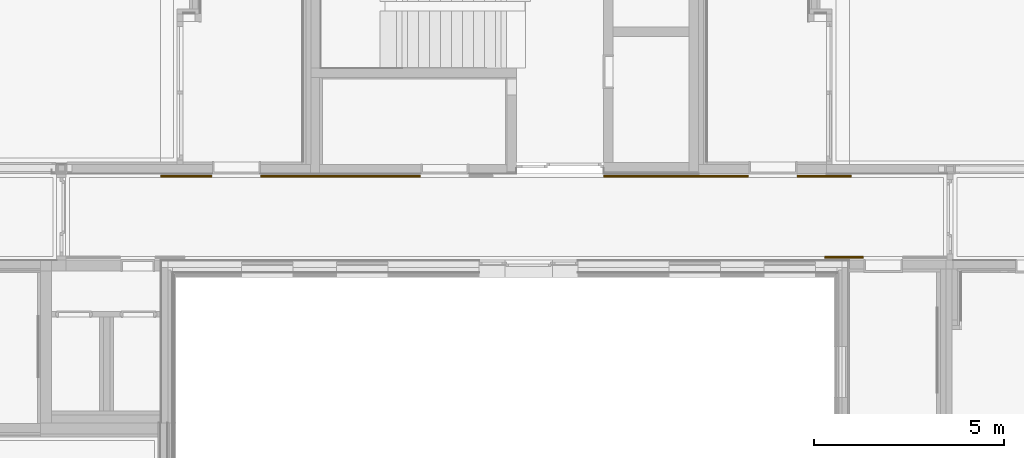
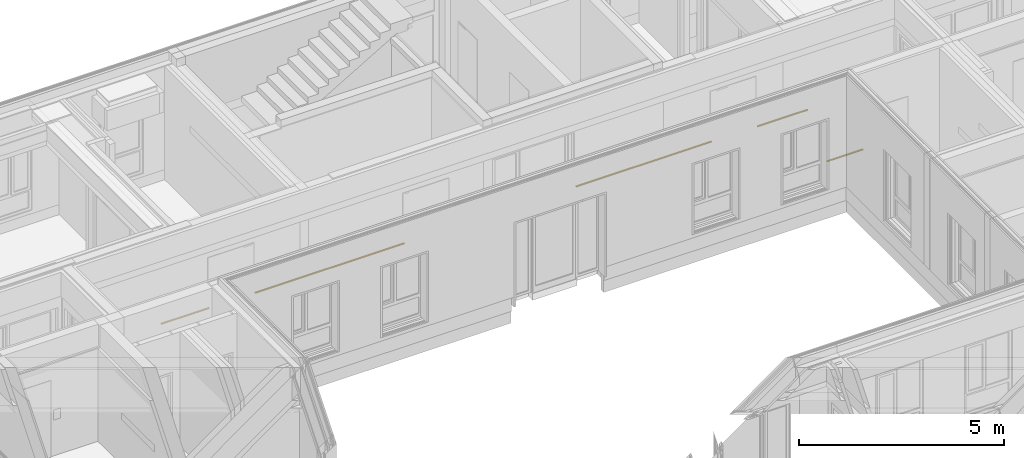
# One storey, part 198 of 207: 5 railings, 5 elements without a shape of their own.
"""IFC4 building model written with IfcOpenShell, lengths in metres."""

import ifcopenshell
import ifcopenshell.guid

model = None  # the IFC model being written
_history = None  # IfcOwnerHistory: only IFC2X3 demands one
_inside = {}  # id of a spatial element -> (the spatial element, [elements in it])
_under = {}  # id of a project, library or spatial element -> (it, [spatial elements below it])
_declared = {}  # id of a project -> (the project, [libraries it declares])
_typed = {}  # id of a type object -> (the type object, [elements of that type])
_made_of = {}  # id of a material, layer set ... -> (it, [elements and type objects made of it])


def new_model(schema):
    """Start an empty IFC model of exactly this schema.

    Asked for "IFC4X3", IfcOpenShell would pick the latest addendum, in which some entities
    have other attributes; the version numbers below select the first issue.
    IFC2X3 requires an IfcOwnerHistory on every rooted entity: one is made here for all.
    """
    global model, _history
    if schema == "IFC4X3":
        model = ifcopenshell.file(schema_version=(4, 3, 0, 0))
    else:
        model = ifcopenshell.file(schema=schema)
    _inside.clear()
    _under.clear()
    _declared.clear()
    _typed.clear()
    _made_of.clear()
    _history = None
    if model.schema == "IFC2X3":
        org = make("IfcOrganization", Name="unknown")
        user = make(
            "IfcPersonAndOrganization",
            ThePerson=make("IfcPerson", FamilyName="unknown"),
            TheOrganization=org,
        )
        app = make(
            "IfcApplication",
            ApplicationDeveloper=org,
            Version="unknown",
            ApplicationFullName="unknown",
            ApplicationIdentifier="unknown",
        )
        _history = make(
            "IfcOwnerHistory",
            OwningUser=user,
            OwningApplication=app,
            ChangeAction="ADDED",
            CreationDate=0,
        )
    return model


def make(cls, **values):
    """One entity of the class cls with the attributes given. An attribute that is None is left unset."""
    return model.create_entity(
        cls, **{name: value for name, value in values.items() if value is not None}
    )


def entity(cls, *values):
    """Any entity or typed value of the class cls, its attributes in the order of the schema. None: left unset."""
    e = model.create_entity(cls)
    for i, value in enumerate(values):
        if value is not None:
            e[i] = value
    return e


def rooted(cls, **values):
    """An entity with a GlobalId (a new one), such as an element, a storey or a relation."""
    return make(cls, GlobalId=ifcopenshell.guid.new(), OwnerHistory=_history, **values)


def si_unit(unit_type, name, prefix=None):
    """IfcSIUnit, for example si_unit("LENGTHUNIT", "METRE", prefix="MILLI")."""
    return make("IfcSIUnit", UnitType=unit_type, Prefix=prefix, Name=name)


def converted_unit(unit_type, name, factor, base, dimensions=None, offset=None):
    """IfcConversionBasedUnit, such as the inch: factor (a typed value) times the base unit."""
    return make(
        "IfcConversionBasedUnit"
        if offset is None
        else "IfcConversionBasedUnitWithOffset",
        ConversionOffset=offset,
        Dimensions=None
        if dimensions is None
        else entity("IfcDimensionalExponents", *dimensions),
        UnitType=unit_type,
        Name=name,
        ConversionFactor=make(
            "IfcMeasureWithUnit", ValueComponent=factor, UnitComponent=base
        ),
    )


def derived_unit(unit_type, elements):
    """IfcDerivedUnit: a product of units, each with its exponent."""
    return make(
        "IfcDerivedUnit",
        Elements=[
            make("IfcDerivedUnitElement", Unit=unit, Exponent=power)
            for unit, power in elements
        ],
        UnitType=unit_type,
    )


def assignment(units):
    """IfcUnitAssignment: the units of a project."""
    return None if units is None else make("IfcUnitAssignment", Units=units)


def point(xyz):
    """IfcCartesianPoint."""
    return None if xyz is None else make("IfcCartesianPoint", Coordinates=xyz)


def direction(xyz):
    """IfcDirection."""
    return None if xyz is None else make("IfcDirection", DirectionRatios=xyz)


def frame(location, z_axis=None, x_axis=None):
    """IfcAxis2Placement3D, a coordinate frame: its origin and axes. An axis left out is left unset."""
    return make(
        "IfcAxis2Placement3D",
        Location=point(location),
        Axis=direction(z_axis),
        RefDirection=direction(x_axis),
    )


def origin():
    """The frame at (0, 0, 0) with its axes left unset."""
    return frame((0.0, 0.0, 0.0))


def place(relative_to, where):
    """IfcLocalPlacement: puts the frame where relative to a parent placement (None: the world)."""
    return make(
        "IfcLocalPlacement", PlacementRelTo=relative_to, RelativePlacement=where
    )


def context(
    kind, dimensions, precision=None, world=None, true_north=None, identifier=None
):
    """IfcGeometricRepresentationContext, for example the 3D "Model" context."""
    return make(
        "IfcGeometricRepresentationContext",
        ContextIdentifier=identifier,
        ContextType=kind,
        CoordinateSpaceDimension=dimensions,
        Precision=precision,
        WorldCoordinateSystem=world,
        TrueNorth=true_north,
    )


def subcontext(parent, identifier, kind, view, scale=None):
    """IfcGeometricRepresentationSubContext, for example "Body" below "Model"."""
    return make(
        "IfcGeometricRepresentationSubContext",
        ContextIdentifier=identifier,
        ContextType=kind,
        ParentContext=parent,
        TargetScale=scale,
        TargetView=view,
    )


def project(units=None, contexts=None):
    """IfcProject with its units and contexts."""
    return rooted(
        "IfcProject",
        Name="project",
        RepresentationContexts=contexts,
        UnitsInContext=assignment(units),
    )


def spatial(cls, under=None, at=None, **own):
    """A site, building, storey or space (cls), placed at a placement, below another one or the project."""
    s = rooted(cls, ObjectPlacement=at, **own)
    if under is not None:
        _under.setdefault(under.id(), (under, []))[1].append(s)
    return s


def faces_of(points, faces, orient=None, outer=None):
    """IfcFace entities. A face is a list of loops; a loop is a list of indices into points, from 0.

    orient and outer hold one flag for each loop. By default every Orientation is true, the
    first loop of a face is its IfcFaceOuterBound and the others are IfcFaceBound.
    """
    made = []
    for i, loops in enumerate(faces):
        bounds = []
        for j, loop in enumerate(loops):
            is_outer = j == 0 if outer is None else outer[i][j]
            bounds.append(
                make(
                    "IfcFaceOuterBound" if is_outer else "IfcFaceBound",
                    Bound=make("IfcPolyLoop", Polygon=[points[k] for k in loop]),
                    Orientation=True if orient is None else orient[i][j],
                )
            )
        made.append(make("IfcFace", Bounds=bounds))
    return made


def faceted_brep(points, faces, orient=None, outer=None, voids=None):
    """IfcFacetedBrep: a solid bounded by flat faces; with voids (closed shells), ...WithVoids."""
    shared = [point(p) for p in points]
    hull = make("IfcClosedShell", CfsFaces=faces_of(shared, faces, orient, outer))
    if voids is None:
        return make("IfcFacetedBrep", Outer=hull)
    return make(
        "IfcFacetedBrepWithVoids",
        Outer=hull,
        Voids=[
            make(cls, CfsFaces=faces_of(shared, fs, o, b)) for cls, fs, o, b in voids
        ],
    )


def shape(context_of_items, identifier, shape_type, items):
    """IfcShapeRepresentation: the items that make up one representation, for example the "Body"."""
    return make(
        "IfcShapeRepresentation",
        ContextOfItems=context_of_items,
        RepresentationIdentifier=identifier,
        RepresentationType=shape_type,
        Items=items,
    )


def material(Name=None, Category=None):
    """IfcMaterial."""
    return make("IfcMaterial", Name=Name, Category=Category)


def made_of(thing, what):
    """Note that an element or type object is made of a material, layer set ...; save() writes the relation."""
    if what is not None:
        _made_of.setdefault(what.id(), (what, []))[1].append(thing)
    return thing


def element(
    cls,
    number,
    at=None,
    inside=None,
    cuts=None,
    type_object=None,
    material=None,
    context=None,
    identifier="Body",
    shape_type=None,
    held_by="IfcProductDefinitionShape",
    body=None,
    shapes=None,
    **own,
):
    """One element of the class cls, such as IfcWall. Its Tag is "e" and its number.

    at: its placement. inside: the storey or other place that contains it. cuts: it is an
    opening in that element (IfcRelVoidsElement). A single representation is given by context,
    identifier, shape_type and body (its items); several are given by shapes. held_by: the class
    of the entity that holds the representations. save() writes the other relations.
    """
    e = rooted(cls, Tag="e%d" % number, ObjectPlacement=at, **own)
    if body is not None:
        shapes = [shape(context, identifier, shape_type, body)]
    if shapes is not None:
        e.Representation = make(held_by, Representations=shapes)
    if inside is not None:
        _inside.setdefault(inside.id(), (inside, []))[1].append(e)
    if cuts is not None:
        rooted(
            "IfcRelVoidsElement", RelatingBuildingElement=cuts, RelatedOpeningElement=e
        )
    if type_object is not None:
        _typed.setdefault(type_object.id(), (type_object, []))[1].append(e)
    return made_of(e, material)


def aggregate(whole, parts):
    """IfcRelAggregates: a whole, such as a stair, and the parts it consists of."""
    return rooted("IfcRelAggregates", RelatingObject=whole, RelatedObjects=parts)


def save(model, path):
    """Write the relations noted so far, then the file.

    IfcRelAggregates (storeys below a building ...), IfcRelContainedInSpatialStructure (elements
    in a storey), IfcRelDefinesByType, IfcRelAssociatesMaterial and IfcRelDeclares: one each for
    every whole, place, type object, material and project.
    """
    for whole, parts in _under.values():
        aggregate(whole, parts)
    for where, things in _inside.values():
        rooted(
            "IfcRelContainedInSpatialStructure",
            RelatedElements=things,
            RelatingStructure=where,
        )
    for kind, things in _typed.values():
        rooted("IfcRelDefinesByType", RelatedObjects=things, RelatingType=kind)
    for what, things in _made_of.values():
        rooted("IfcRelAssociatesMaterial", RelatedObjects=things, RelatingMaterial=what)
    for by, libraries in _declared.values():
        rooted("IfcRelDeclares", RelatingContext=by, RelatedDefinitions=libraries)
    model.write(path)


model = new_model("IFC4")

# Units and contexts
model_context = context("Model", 3, precision=1e-05, world=origin())
body_context = subcontext(model_context, "Body", "Model", "MODEL_VIEW")
ifc_project = project(units=[si_unit("LENGTHUNIT", "METRE"), si_unit("AREAUNIT", "SQUARE_METRE"), si_unit("VOLUMEUNIT", "CUBIC_METRE"), si_unit("MASSUNIT", "GRAM", prefix="KILO"), converted_unit("PLANEANGLEUNIT", "DEGREE", entity("IfcPlaneAngleMeasure", 0.0174532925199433), si_unit("PLANEANGLEUNIT", "RADIAN"), dimensions=[0, 0, 0, 0, 0, 0, 0]), derived_unit("THERMALTRANSMITTANCEUNIT", [(si_unit("POWERUNIT", "WATT"), 1), (si_unit("THERMODYNAMICTEMPERATUREUNIT", "KELVIN"), -1), (si_unit("LENGTHUNIT", "METRE"), -2)]), derived_unit("VOLUMETRICFLOWRATEUNIT", [(si_unit("LENGTHUNIT", "METRE"), 3), (converted_unit("TIMEUNIT", "hour", entity("IfcTimeMeasure", 3600.0), si_unit("TIMEUNIT", "SECOND"), dimensions=[0, 0, 1, 0, 0, 0, 0]), -1), (si_unit("LENGTHUNIT", "METRE"), -1)])], contexts=[model_context])

# Site, building, storey
site_placement = place(None, origin())
site = spatial("IfcSite", under=ifc_project, at=site_placement, Name="Psychiatrie Neubau Wunstorf", CompositionType="ELEMENT")
building_placement = place(site_placement, origin())
building = spatial("IfcBuilding", under=site, at=building_placement, Name="Neubau H2 Stationsgebäude", CompositionType="ELEMENT")
storey_placement = place(building_placement, frame((0.0, 0.0, -0.2)))
storey = spatial("IfcBuildingStorey", under=building, at=storey_placement, Name="H2 Ebene 0", CompositionType="ELEMENT", Elevation=-0.2)

# Assembly, railing
assembly_1_placement = place(storey_placement, frame((0.0, 0.0, 0.2)))
assembly_1 = element("IfcElementAssembly", 1, at=assembly_1_placement, inside=storey, Name="Geländer+Abstand", PredefinedType="NOTDEFINED")
ifc_material_1 = material(Name="Holz")
railing_1_placement = place(assembly_1_placement, frame((46.5800000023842, 22.7639999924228, 0.8)))
railing_1 = element("IfcRailing", 2, at=railing_1_placement, material=ifc_material_1, context=body_context, shape_type="Brep", body=[
    faceted_brep([(0.0, 0.0498968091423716, 0.025), (0.0, 0.0495185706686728, 0.0293232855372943), (0.0, 0.0483953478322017, 0.0335152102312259), (0.0, 0.0465612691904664, 0.0374484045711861), (0.0, 0.0440720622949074, 0.0410033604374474), (0.0, 0.0410033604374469, 0.0440720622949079), (0.0, 0.0374484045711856, 0.0465612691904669), (0.0, 0.0335152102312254, 0.0483953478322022), (0.0, 0.0293232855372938, 0.0495185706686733), (0.0, 0.0249999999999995, 0.0498968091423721), (0.0, 0.0206767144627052, 0.0495185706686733), (0.0, 0.0164847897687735, 0.0483953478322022), (0.0, 0.0125515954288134, 0.0465612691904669), (0.0, 0.00899663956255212, 0.0440720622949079), (0.0, 0.00592793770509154, 0.0410033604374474), (0.0, 0.00343873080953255, 0.0374484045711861), (0.0, 0.00160465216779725, 0.0335152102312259), (0.0, 0.000481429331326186, 0.0293232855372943), (0.0, 0.00010319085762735, 0.025), (0.0, 0.000481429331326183, 0.0206767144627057), (0.0, 0.00160465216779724, 0.0164847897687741), (0.0, 0.00343873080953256, 0.0125515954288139), (0.0, 0.00592793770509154, 0.00899663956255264), (0.0, 0.00899663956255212, 0.00592793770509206), (0.0, 0.0125515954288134, 0.00343873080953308), (0.0, 0.0164847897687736, 0.00160465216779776), (0.0, 0.0206767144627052, 0.000481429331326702), (0.0, 0.0249999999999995, 0.000103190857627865), (0.0, 0.0293232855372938, 0.000481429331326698), (0.0, 0.0335152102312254, 0.00160465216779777), (0.0, 0.0374484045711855, 0.00343873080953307), (0.0, 0.0410033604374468, 0.00592793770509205), (0.0, 0.0440720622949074, 0.00899663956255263), (0.0, 0.0465612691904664, 0.0125515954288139), (0.0, 0.0483953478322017, 0.0164847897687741), (0.0, 0.0495185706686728, 0.0206767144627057), (4.19499999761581, 0.0498968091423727, 0.025), (4.19499999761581, 0.0495185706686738, 0.0206767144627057), (4.19499999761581, 0.0483953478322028, 0.0164847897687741), (4.19499999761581, 0.0465612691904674, 0.0125515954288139), (4.19499999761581, 0.0440720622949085, 0.00899663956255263), (4.19499999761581, 0.0410033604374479, 0.00592793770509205), (4.19499999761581, 0.0374484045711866, 0.00343873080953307), (4.19499999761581, 0.0335152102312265, 0.00160465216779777), (4.19499999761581, 0.0293232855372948, 0.000481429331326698), (4.19499999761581, 0.0250000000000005, 0.000103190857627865), (4.19499999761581, 0.0206767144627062, 0.000481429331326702), (4.19499999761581, 0.0164847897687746, 0.00160465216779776), (4.19499999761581, 0.0125515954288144, 0.00343873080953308), (4.19499999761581, 0.00899663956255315, 0.00592793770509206), (4.19499999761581, 0.00592793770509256, 0.00899663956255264), (4.19499999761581, 0.00343873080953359, 0.0125515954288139), (4.19499999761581, 0.00160465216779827, 0.0164847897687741), (4.19499999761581, 0.00048142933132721, 0.0206767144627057), (4.19499999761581, 0.000103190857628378, 0.025), (4.19499999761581, 0.000481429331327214, 0.0293232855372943), (4.19499999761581, 0.00160465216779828, 0.0335152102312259), (4.19499999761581, 0.00343873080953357, 0.0374484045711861), (4.19499999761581, 0.00592793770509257, 0.0410033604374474), (4.19499999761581, 0.00899663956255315, 0.0440720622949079), (4.19499999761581, 0.0125515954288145, 0.0465612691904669), (4.19499999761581, 0.0164847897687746, 0.0483953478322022), (4.19499999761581, 0.0206767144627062, 0.0495185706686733), (4.19499999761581, 0.0250000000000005, 0.0498968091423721), (4.19499999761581, 0.0293232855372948, 0.0495185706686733), (4.19499999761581, 0.0335152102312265, 0.0483953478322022), (4.19499999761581, 0.0374484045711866, 0.0465612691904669), (4.19499999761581, 0.0410033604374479, 0.0440720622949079), (4.19499999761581, 0.0440720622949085, 0.0410033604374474), (4.19499999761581, 0.0465612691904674, 0.0374484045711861), (4.19499999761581, 0.0483953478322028, 0.0335152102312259), (4.19499999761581, 0.0495185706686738, 0.0293232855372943)], [[[0, 1, 2, 3, 4, 5, 6, 7, 8, 9, 10, 11, 12, 13, 14, 15, 16, 17, 18, 19, 20, 21, 22, 23, 24, 25, 26, 27, 28, 29, 30, 31, 32, 33, 34, 35]], [[36, 37, 38, 39, 40, 41, 42, 43, 44, 45, 46, 47, 48, 49, 50, 51, 52, 53, 54, 55, 56, 57, 58, 59, 60, 61, 62, 63, 64, 65, 66, 67, 68, 69, 70, 71]], [[1, 0, 36, 71]], [[2, 1, 71, 70]], [[3, 2, 70, 69]], [[4, 3, 69, 68]], [[5, 4, 68, 67]], [[6, 5, 67, 66]], [[7, 6, 66, 65]], [[8, 7, 65, 64]], [[9, 8, 64, 63]], [[10, 9, 63, 62]], [[11, 10, 62, 61]], [[12, 11, 61, 60]], [[13, 12, 60, 59]], [[14, 13, 59, 58]], [[15, 14, 58, 57]], [[16, 15, 57, 56]], [[17, 16, 56, 55]], [[18, 17, 55, 54]], [[19, 18, 54, 53]], [[20, 19, 53, 52]], [[21, 20, 52, 51]], [[22, 21, 51, 50]], [[23, 22, 50, 49]], [[24, 23, 49, 48]], [[25, 24, 48, 47]], [[26, 25, 47, 46]], [[27, 26, 46, 45]], [[28, 27, 45, 44]], [[29, 28, 44, 43]], [[30, 29, 43, 42]], [[31, 30, 42, 41]], [[32, 31, 41, 40]], [[33, 32, 40, 39]], [[34, 33, 39, 38]], [[35, 34, 38, 37]], [[0, 35, 37, 36]]], orient=[[False], [False], [False], [False], [False], [False], [False], [False], [False], [False], [False], [False], [False], [False], [False], [False], [False], [False], [False], [False], [False], [False], [False], [False], [False], [False], [False], [False], [False], [False], [False], [False], [False], [False], [False], [False], [False], [False]]),
])
aggregate(assembly_1, [railing_1])

assembly_2_placement = place(storey_placement, frame((0.0, 0.0, 0.2)))
assembly_2 = element("IfcElementAssembly", 3, at=assembly_2_placement, inside=storey, Name="Geländer+Abstand", PredefinedType="NOTDEFINED")
ifc_material_2 = material(Name="Holz")
railing_2_placement = place(assembly_2_placement, frame((55.6, 22.7639999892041, 0.8)))
railing_2 = element("IfcRailing", 4, at=railing_2_placement, material=ifc_material_2, context=body_context, shape_type="Brep", body=[
    faceted_brep([(0.0, 0.0498968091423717, 0.025), (0.0, 0.0495185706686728, 0.0293232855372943), (0.0, 0.0483953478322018, 0.0335152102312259), (0.0, 0.0465612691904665, 0.0374484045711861), (0.0, 0.0440720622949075, 0.0410033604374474), (0.0, 0.0410033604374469, 0.0440720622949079), (0.0, 0.0374484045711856, 0.0465612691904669), (0.0, 0.0335152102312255, 0.0483953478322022), (0.0, 0.0293232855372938, 0.0495185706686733), (0.0, 0.0249999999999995, 0.0498968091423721), (0.0, 0.0206767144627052, 0.0495185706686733), (0.0, 0.0164847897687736, 0.0483953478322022), (0.0, 0.0125515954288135, 0.0465612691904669), (0.0, 0.00899663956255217, 0.0440720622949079), (0.0, 0.00592793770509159, 0.0410033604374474), (0.0, 0.0034387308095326, 0.0374484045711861), (0.0, 0.0016046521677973, 0.0335152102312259), (0.0, 0.000481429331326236, 0.0293232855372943), (0.0, 0.0001031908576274, 0.025), (0.0, 0.000481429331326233, 0.0206767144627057), (0.0, 0.00160465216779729, 0.0164847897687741), (0.0, 0.00343873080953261, 0.0125515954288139), (0.0, 0.00592793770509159, 0.00899663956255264), (0.0, 0.00899663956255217, 0.00592793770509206), (0.0, 0.0125515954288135, 0.00343873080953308), (0.0, 0.0164847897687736, 0.00160465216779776), (0.0, 0.0206767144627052, 0.000481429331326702), (0.0, 0.0249999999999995, 0.000103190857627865), (0.0, 0.0293232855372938, 0.000481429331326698), (0.0, 0.0335152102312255, 0.00160465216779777), (0.0, 0.0374484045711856, 0.00343873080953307), (0.0, 0.0410033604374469, 0.00592793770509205), (0.0, 0.0440720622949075, 0.00899663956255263), (0.0, 0.0465612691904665, 0.0125515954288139), (0.0, 0.0483953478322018, 0.0164847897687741), (0.0, 0.0495185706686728, 0.0206767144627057), (3.81, 0.0498968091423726, 0.025), (3.81, 0.0495185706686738, 0.0206767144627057), (3.81, 0.0483953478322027, 0.0164847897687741), (3.81, 0.0465612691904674, 0.0125515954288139), (3.81, 0.0440720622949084, 0.00899663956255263), (3.81, 0.0410033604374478, 0.00592793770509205), (3.81, 0.0374484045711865, 0.00343873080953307), (3.81, 0.0335152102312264, 0.00160465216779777), (3.81, 0.0293232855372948, 0.000481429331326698), (3.81, 0.0250000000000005, 0.000103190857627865), (3.81, 0.0206767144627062, 0.000481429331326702), (3.81, 0.0164847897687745, 0.00160465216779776), (3.81, 0.0125515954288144, 0.00343873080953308), (3.81, 0.0089966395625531, 0.00592793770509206), (3.81, 0.00592793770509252, 0.00899663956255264), (3.81, 0.00343873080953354, 0.0125515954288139), (3.81, 0.00160465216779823, 0.0164847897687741), (3.81, 0.000481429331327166, 0.0206767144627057), (3.81, 0.000103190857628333, 0.025), (3.81, 0.000481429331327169, 0.0293232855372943), (3.81, 0.00160465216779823, 0.0335152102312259), (3.81, 0.00343873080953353, 0.0374484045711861), (3.81, 0.00592793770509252, 0.0410033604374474), (3.81, 0.00899663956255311, 0.0440720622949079), (3.81, 0.0125515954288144, 0.0465612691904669), (3.81, 0.0164847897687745, 0.0483953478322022), (3.81, 0.0206767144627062, 0.0495185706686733), (3.81, 0.0250000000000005, 0.0498968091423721), (3.81, 0.0293232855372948, 0.0495185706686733), (3.81, 0.0335152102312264, 0.0483953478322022), (3.81, 0.0374484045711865, 0.0465612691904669), (3.81, 0.0410033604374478, 0.0440720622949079), (3.81, 0.0440720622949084, 0.0410033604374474), (3.81, 0.0465612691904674, 0.0374484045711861), (3.81, 0.0483953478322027, 0.0335152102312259), (3.81, 0.0495185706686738, 0.0293232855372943)], [[[0, 1, 2, 3, 4, 5, 6, 7, 8, 9, 10, 11, 12, 13, 14, 15, 16, 17, 18, 19, 20, 21, 22, 23, 24, 25, 26, 27, 28, 29, 30, 31, 32, 33, 34, 35]], [[36, 37, 38, 39, 40, 41, 42, 43, 44, 45, 46, 47, 48, 49, 50, 51, 52, 53, 54, 55, 56, 57, 58, 59, 60, 61, 62, 63, 64, 65, 66, 67, 68, 69, 70, 71]], [[1, 0, 36, 71]], [[2, 1, 71, 70]], [[3, 2, 70, 69]], [[4, 3, 69, 68]], [[5, 4, 68, 67]], [[6, 5, 67, 66]], [[7, 6, 66, 65]], [[8, 7, 65, 64]], [[9, 8, 64, 63]], [[10, 9, 63, 62]], [[11, 10, 62, 61]], [[12, 11, 61, 60]], [[13, 12, 60, 59]], [[14, 13, 59, 58]], [[15, 14, 58, 57]], [[16, 15, 57, 56]], [[17, 16, 56, 55]], [[18, 17, 55, 54]], [[19, 18, 54, 53]], [[20, 19, 53, 52]], [[21, 20, 52, 51]], [[22, 21, 51, 50]], [[23, 22, 50, 49]], [[24, 23, 49, 48]], [[25, 24, 48, 47]], [[26, 25, 47, 46]], [[27, 26, 46, 45]], [[28, 27, 45, 44]], [[29, 28, 44, 43]], [[30, 29, 43, 42]], [[31, 30, 42, 41]], [[32, 31, 41, 40]], [[33, 32, 40, 39]], [[34, 33, 39, 38]], [[35, 34, 38, 37]], [[0, 35, 37, 36]]], orient=[[False], [False], [False], [False], [False], [False], [False], [False], [False], [False], [False], [False], [False], [False], [False], [False], [False], [False], [False], [False], [False], [False], [False], [False], [False], [False], [False], [False], [False], [False], [False], [False], [False], [False], [False], [False], [False], [False]]),
])
aggregate(assembly_2, [railing_2])

assembly_3_placement = place(storey_placement, frame((0.0, 0.0, 0.2)))
assembly_3 = element("IfcElementAssembly", 5, at=assembly_3_placement, inside=storey, Name="Geländer+Abstand", PredefinedType="NOTDEFINED")
ifc_material_3 = material(Name="Holz")
railing_3_placement = place(assembly_3_placement, frame((60.699, 22.7649999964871, 0.8)))
railing_3 = element("IfcRailing", 6, at=railing_3_placement, material=ifc_material_3, context=body_context, shape_type="Brep", body=[
    faceted_brep([(0.0, 0.049896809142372, 0.025), (0.0, 0.0495185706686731, 0.0293232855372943), (0.0, 0.0483953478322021, 0.0335152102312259), (0.0, 0.0465612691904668, 0.0374484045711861), (0.0, 0.0440720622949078, 0.0410033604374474), (0.0, 0.0410033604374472, 0.0440720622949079), (0.0, 0.0374484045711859, 0.0465612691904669), (0.0, 0.0335152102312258, 0.0483953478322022), (0.0, 0.0293232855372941, 0.0495185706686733), (0.0, 0.0249999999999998, 0.0498968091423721), (0.0, 0.0206767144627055, 0.0495185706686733), (0.0, 0.0164847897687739, 0.0483953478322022), (0.0, 0.0125515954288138, 0.0465612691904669), (0.0, 0.00899663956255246, 0.0440720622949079), (0.0, 0.00592793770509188, 0.0410033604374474), (0.0, 0.00343873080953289, 0.0374484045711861), (0.0, 0.00160465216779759, 0.0335152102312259), (0.0, 0.000481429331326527, 0.0293232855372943), (0.0, 0.000103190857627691, 0.025), (0.0, 0.000481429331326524, 0.0206767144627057), (0.0, 0.00160465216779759, 0.0164847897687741), (0.0, 0.0034387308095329, 0.0125515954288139), (0.0, 0.00592793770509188, 0.00899663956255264), (0.0, 0.00899663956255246, 0.00592793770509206), (0.0, 0.0125515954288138, 0.00343873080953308), (0.0, 0.0164847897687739, 0.00160465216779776), (0.0, 0.0206767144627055, 0.000481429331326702), (0.0, 0.0249999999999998, 0.000103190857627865), (0.0, 0.0293232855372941, 0.000481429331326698), (0.0, 0.0335152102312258, 0.00160465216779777), (0.0, 0.0374484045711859, 0.00343873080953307), (0.0, 0.0410033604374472, 0.00592793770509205), (0.0, 0.0440720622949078, 0.00899663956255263), (0.0, 0.0465612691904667, 0.0125515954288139), (0.0, 0.0483953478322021, 0.0164847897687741), (0.0, 0.0495185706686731, 0.0206767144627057), (1.4095, 0.0498968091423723, 0.025), (1.4095, 0.0495185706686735, 0.0206767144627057), (1.4095, 0.0483953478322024, 0.0164847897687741), (1.4095, 0.0465612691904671, 0.0125515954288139), (1.4095, 0.0440720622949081, 0.00899663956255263), (1.4095, 0.0410033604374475, 0.00592793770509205), (1.4095, 0.0374484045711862, 0.00343873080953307), (1.4095, 0.0335152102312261, 0.00160465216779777), (1.4095, 0.0293232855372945, 0.000481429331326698), (1.4095, 0.0250000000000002, 0.000103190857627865), (1.4095, 0.0206767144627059, 0.000481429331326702), (1.4095, 0.0164847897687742, 0.00160465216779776), (1.4095, 0.0125515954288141, 0.00343873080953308), (1.4095, 0.00899663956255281, 0.00592793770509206), (1.4095, 0.00592793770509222, 0.00899663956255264), (1.4095, 0.00343873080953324, 0.0125515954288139), (1.4095, 0.00160465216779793, 0.0164847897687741), (1.4095, 0.000481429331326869, 0.0206767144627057), (1.4095, 0.000103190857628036, 0.025), (1.4095, 0.000481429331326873, 0.0293232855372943), (1.4095, 0.00160465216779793, 0.0335152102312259), (1.4095, 0.00343873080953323, 0.0374484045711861), (1.4095, 0.00592793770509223, 0.0410033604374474), (1.4095, 0.00899663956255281, 0.0440720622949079), (1.4095, 0.0125515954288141, 0.0465612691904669), (1.4095, 0.0164847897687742, 0.0483953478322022), (1.4095, 0.0206767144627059, 0.0495185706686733), (1.4095, 0.0250000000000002, 0.0498968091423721), (1.4095, 0.0293232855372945, 0.0495185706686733), (1.4095, 0.0335152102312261, 0.0483953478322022), (1.4095, 0.0374484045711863, 0.0465612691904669), (1.4095, 0.0410033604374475, 0.0440720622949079), (1.4095, 0.0440720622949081, 0.0410033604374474), (1.4095, 0.0465612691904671, 0.0374484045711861), (1.4095, 0.0483953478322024, 0.0335152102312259), (1.4095, 0.0495185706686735, 0.0293232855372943)], [[[0, 1, 2, 3, 4, 5, 6, 7, 8, 9, 10, 11, 12, 13, 14, 15, 16, 17, 18, 19, 20, 21, 22, 23, 24, 25, 26, 27, 28, 29, 30, 31, 32, 33, 34, 35]], [[36, 37, 38, 39, 40, 41, 42, 43, 44, 45, 46, 47, 48, 49, 50, 51, 52, 53, 54, 55, 56, 57, 58, 59, 60, 61, 62, 63, 64, 65, 66, 67, 68, 69, 70, 71]], [[1, 0, 36, 71]], [[2, 1, 71, 70]], [[3, 2, 70, 69]], [[4, 3, 69, 68]], [[5, 4, 68, 67]], [[6, 5, 67, 66]], [[7, 6, 66, 65]], [[8, 7, 65, 64]], [[9, 8, 64, 63]], [[10, 9, 63, 62]], [[11, 10, 62, 61]], [[12, 11, 61, 60]], [[13, 12, 60, 59]], [[14, 13, 59, 58]], [[15, 14, 58, 57]], [[16, 15, 57, 56]], [[17, 16, 56, 55]], [[18, 17, 55, 54]], [[19, 18, 54, 53]], [[20, 19, 53, 52]], [[21, 20, 52, 51]], [[22, 21, 51, 50]], [[23, 22, 50, 49]], [[24, 23, 49, 48]], [[25, 24, 48, 47]], [[26, 25, 47, 46]], [[27, 26, 46, 45]], [[28, 27, 45, 44]], [[29, 28, 44, 43]], [[30, 29, 43, 42]], [[31, 30, 42, 41]], [[32, 31, 41, 40]], [[33, 32, 40, 39]], [[34, 33, 39, 38]], [[35, 34, 38, 37]], [[0, 35, 37, 36]]], orient=[[False], [False], [False], [False], [False], [False], [False], [False], [False], [False], [False], [False], [False], [False], [False], [False], [False], [False], [False], [False], [False], [False], [False], [False], [False], [False], [False], [False], [False], [False], [False], [False], [False], [False], [False], [False], [False], [False]]),
])
aggregate(assembly_3, [railing_3])

assembly_4_placement = place(storey_placement, frame((0.0, 0.0, 0.2)))
assembly_4 = element("IfcElementAssembly", 7, at=assembly_4_placement, inside=storey, Name="Geländer+Abstand", PredefinedType="NOTDEFINED")
ifc_material_4 = material(Name="Holz")
railing_4_placement = place(assembly_4_placement, frame((43.9405, 22.7639990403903, 0.8)))
railing_4 = element("IfcRailing", 8, at=railing_4_placement, material=ifc_material_4, context=body_context, shape_type="Brep", body=[
    faceted_brep([(0.0, 0.049896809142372, 0.025), (0.0, 0.0495185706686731, 0.0293232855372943), (0.0, 0.0483953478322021, 0.0335152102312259), (0.0, 0.0465612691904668, 0.0374484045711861), (0.0, 0.0440720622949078, 0.0410033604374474), (0.0, 0.0410033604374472, 0.0440720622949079), (0.0, 0.0374484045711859, 0.0465612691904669), (0.0, 0.0335152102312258, 0.0483953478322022), (0.0, 0.0293232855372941, 0.0495185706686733), (0.0, 0.0249999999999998, 0.0498968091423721), (0.0, 0.0206767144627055, 0.0495185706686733), (0.0, 0.0164847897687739, 0.0483953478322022), (0.0, 0.0125515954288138, 0.0465612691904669), (0.0, 0.00899663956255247, 0.0440720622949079), (0.0, 0.00592793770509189, 0.0410033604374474), (0.0, 0.0034387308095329, 0.0374484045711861), (0.0, 0.0016046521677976, 0.0335152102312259), (0.0, 0.000481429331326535, 0.0293232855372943), (0.0, 0.000103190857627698, 0.025), (0.0, 0.000481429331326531, 0.0206767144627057), (0.0, 0.00160465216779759, 0.0164847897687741), (0.0, 0.00343873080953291, 0.0125515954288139), (0.0, 0.00592793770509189, 0.00899663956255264), (0.0, 0.00899663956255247, 0.00592793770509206), (0.0, 0.0125515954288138, 0.00343873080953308), (0.0, 0.0164847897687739, 0.00160465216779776), (0.0, 0.0206767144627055, 0.000481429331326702), (0.0, 0.0249999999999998, 0.000103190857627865), (0.0, 0.0293232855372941, 0.000481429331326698), (0.0, 0.0335152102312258, 0.00160465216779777), (0.0, 0.0374484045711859, 0.00343873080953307), (0.0, 0.0410033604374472, 0.00592793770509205), (0.0, 0.0440720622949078, 0.00899663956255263), (0.0, 0.0465612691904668, 0.0125515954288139), (0.0, 0.0483953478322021, 0.0164847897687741), (0.0, 0.0495185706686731, 0.0206767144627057), (1.34950000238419, 0.0498968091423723, 0.025), (1.34950000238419, 0.0495185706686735, 0.0206767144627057), (1.34950000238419, 0.0483953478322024, 0.0164847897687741), (1.34950000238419, 0.0465612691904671, 0.0125515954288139), (1.34950000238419, 0.0440720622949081, 0.00899663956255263), (1.34950000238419, 0.0410033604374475, 0.00592793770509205), (1.34950000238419, 0.0374484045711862, 0.00343873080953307), (1.34950000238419, 0.0335152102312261, 0.00160465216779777), (1.34950000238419, 0.0293232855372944, 0.000481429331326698), (1.34950000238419, 0.0250000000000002, 0.000103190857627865), (1.34950000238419, 0.0206767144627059, 0.000481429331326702), (1.34950000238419, 0.0164847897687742, 0.00160465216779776), (1.34950000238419, 0.0125515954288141, 0.00343873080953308), (1.34950000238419, 0.0089966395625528, 0.00592793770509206), (1.34950000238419, 0.00592793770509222, 0.00899663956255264), (1.34950000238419, 0.00343873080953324, 0.0125515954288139), (1.34950000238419, 0.00160465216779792, 0.0164847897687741), (1.34950000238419, 0.000481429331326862, 0.0206767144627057), (1.34950000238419, 0.000103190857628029, 0.025), (1.34950000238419, 0.000481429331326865, 0.0293232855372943), (1.34950000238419, 0.00160465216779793, 0.0335152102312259), (1.34950000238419, 0.00343873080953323, 0.0374484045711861), (1.34950000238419, 0.00592793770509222, 0.0410033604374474), (1.34950000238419, 0.0089966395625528, 0.0440720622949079), (1.34950000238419, 0.0125515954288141, 0.0465612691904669), (1.34950000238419, 0.0164847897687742, 0.0483953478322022), (1.34950000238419, 0.0206767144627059, 0.0495185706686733), (1.34950000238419, 0.0250000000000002, 0.0498968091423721), (1.34950000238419, 0.0293232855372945, 0.0495185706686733), (1.34950000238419, 0.0335152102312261, 0.0483953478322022), (1.34950000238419, 0.0374484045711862, 0.0465612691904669), (1.34950000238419, 0.0410033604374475, 0.0440720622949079), (1.34950000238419, 0.0440720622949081, 0.0410033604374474), (1.34950000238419, 0.0465612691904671, 0.0374484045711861), (1.34950000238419, 0.0483953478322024, 0.0335152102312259), (1.34950000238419, 0.0495185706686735, 0.0293232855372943)], [[[0, 1, 2, 3, 4, 5, 6, 7, 8, 9, 10, 11, 12, 13, 14, 15, 16, 17, 18, 19, 20, 21, 22, 23, 24, 25, 26, 27, 28, 29, 30, 31, 32, 33, 34, 35]], [[36, 37, 38, 39, 40, 41, 42, 43, 44, 45, 46, 47, 48, 49, 50, 51, 52, 53, 54, 55, 56, 57, 58, 59, 60, 61, 62, 63, 64, 65, 66, 67, 68, 69, 70, 71]], [[1, 0, 36, 71]], [[2, 1, 71, 70]], [[3, 2, 70, 69]], [[4, 3, 69, 68]], [[5, 4, 68, 67]], [[6, 5, 67, 66]], [[7, 6, 66, 65]], [[8, 7, 65, 64]], [[9, 8, 64, 63]], [[10, 9, 63, 62]], [[11, 10, 62, 61]], [[12, 11, 61, 60]], [[13, 12, 60, 59]], [[14, 13, 59, 58]], [[15, 14, 58, 57]], [[16, 15, 57, 56]], [[17, 16, 56, 55]], [[18, 17, 55, 54]], [[19, 18, 54, 53]], [[20, 19, 53, 52]], [[21, 20, 52, 51]], [[22, 21, 51, 50]], [[23, 22, 50, 49]], [[24, 23, 49, 48]], [[25, 24, 48, 47]], [[26, 25, 47, 46]], [[27, 26, 46, 45]], [[28, 27, 45, 44]], [[29, 28, 44, 43]], [[30, 29, 43, 42]], [[31, 30, 42, 41]], [[32, 31, 41, 40]], [[33, 32, 40, 39]], [[34, 33, 39, 38]], [[35, 34, 38, 37]], [[0, 35, 37, 36]]], orient=[[False], [False], [False], [False], [False], [False], [False], [False], [False], [False], [False], [False], [False], [False], [False], [False], [False], [False], [False], [False], [False], [False], [False], [False], [False], [False], [False], [False], [False], [False], [False], [False], [False], [False], [False], [False], [False], [False]]),
])
aggregate(assembly_4, [railing_4])

assembly_5_placement = place(storey_placement, frame((0.0, 0.0, 0.2)))
assembly_5 = element("IfcElementAssembly", 9, at=assembly_5_placement, inside=storey, Name="Geländer+Abstand", PredefinedType="NOTDEFINED")
ifc_material_5 = material(Name="Holz")
railing_5_placement = place(assembly_5_placement, frame((61.4199999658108, 20.6359980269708, 0.8)))
railing_5 = element("IfcRailing", 10, at=railing_5_placement, material=ifc_material_5, context=body_context, shape_type="Brep", body=[
    faceted_brep([(1.01500004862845, 0.000103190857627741, 0.025), (1.01500004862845, 0.000481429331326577, 0.0293232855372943), (1.01500004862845, 0.00160465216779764, 0.0335152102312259), (1.01500004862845, 0.00343873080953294, 0.0374484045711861), (1.01500004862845, 0.00592793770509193, 0.0410033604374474), (1.01500004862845, 0.00899663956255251, 0.0440720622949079), (1.01500004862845, 0.0125515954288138, 0.0465612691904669), (1.01500004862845, 0.0164847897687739, 0.0483953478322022), (1.01500004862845, 0.0206767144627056, 0.0495185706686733), (1.01500004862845, 0.0249999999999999, 0.0498968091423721), (1.01500004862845, 0.0293232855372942, 0.0495185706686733), (1.01500004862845, 0.0335152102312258, 0.0483953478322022), (1.01500004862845, 0.0374484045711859, 0.0465612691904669), (1.01500004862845, 0.0410033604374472, 0.0440720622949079), (1.01500004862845, 0.0440720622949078, 0.0410033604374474), (1.01500004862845, 0.0465612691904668, 0.0374484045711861), (1.01500004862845, 0.0483953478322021, 0.0335152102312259), (1.01500004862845, 0.0495185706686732, 0.0293232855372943), (1.01500004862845, 0.049896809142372, 0.025), (1.01500004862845, 0.0495185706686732, 0.0206767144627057), (1.01500004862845, 0.0483953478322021, 0.0164847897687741), (1.01500004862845, 0.0465612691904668, 0.0125515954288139), (1.01500004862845, 0.0440720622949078, 0.00899663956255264), (1.01500004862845, 0.0410033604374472, 0.00592793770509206), (1.01500004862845, 0.037448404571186, 0.00343873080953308), (1.01500004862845, 0.0335152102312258, 0.00160465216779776), (1.01500004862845, 0.0293232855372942, 0.000481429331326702), (1.01500004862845, 0.0249999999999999, 0.000103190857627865), (1.01500004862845, 0.0206767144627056, 0.000481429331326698), (1.01500004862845, 0.0164847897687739, 0.00160465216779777), (1.01500004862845, 0.0125515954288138, 0.00343873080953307), (1.01500004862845, 0.00899663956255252, 0.00592793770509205), (1.01500004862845, 0.00592793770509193, 0.00899663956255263), (1.01500004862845, 0.00343873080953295, 0.0125515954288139), (1.01500004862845, 0.00160465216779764, 0.0164847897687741), (1.01500004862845, 0.000481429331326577, 0.0206767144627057), (0.0, 0.00010319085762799, 0.025), (0.0, 0.000481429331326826, 0.0206767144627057), (0.0, 0.00160465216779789, 0.0164847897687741), (0.0, 0.0034387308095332, 0.0125515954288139), (0.0, 0.00592793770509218, 0.00899663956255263), (0.0, 0.00899663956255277, 0.00592793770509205), (0.0, 0.0125515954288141, 0.00343873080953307), (0.0, 0.0164847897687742, 0.00160465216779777), (0.0, 0.0206767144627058, 0.000481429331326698), (0.0, 0.0250000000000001, 0.000103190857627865), (0.0, 0.0293232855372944, 0.000481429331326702), (0.0, 0.0335152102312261, 0.00160465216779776), (0.0, 0.0374484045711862, 0.00343873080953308), (0.0, 0.0410033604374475, 0.00592793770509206), (0.0, 0.0440720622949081, 0.00899663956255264), (0.0, 0.0465612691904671, 0.0125515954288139), (0.0, 0.0483953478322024, 0.0164847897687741), (0.0, 0.0495185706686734, 0.0206767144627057), (0.0, 0.0498968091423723, 0.025), (0.0, 0.0495185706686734, 0.0293232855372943), (0.0, 0.0483953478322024, 0.0335152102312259), (0.0, 0.0465612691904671, 0.0374484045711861), (0.0, 0.0440720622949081, 0.0410033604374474), (0.0, 0.0410033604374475, 0.0440720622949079), (0.0, 0.0374484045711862, 0.0465612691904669), (0.0, 0.0335152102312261, 0.0483953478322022), (0.0, 0.0293232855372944, 0.0495185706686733), (0.0, 0.0250000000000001, 0.0498968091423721), (0.0, 0.0206767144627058, 0.0495185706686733), (0.0, 0.0164847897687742, 0.0483953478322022), (0.0, 0.012551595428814, 0.0465612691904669), (0.0, 0.00899663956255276, 0.0440720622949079), (0.0, 0.00592793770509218, 0.0410033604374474), (0.0, 0.00343873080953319, 0.0374484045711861), (0.0, 0.00160465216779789, 0.0335152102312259), (0.0, 0.000481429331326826, 0.0293232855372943)], [[[0, 1, 2, 3, 4, 5, 6, 7, 8, 9, 10, 11, 12, 13, 14, 15, 16, 17, 18, 19, 20, 21, 22, 23, 24, 25, 26, 27, 28, 29, 30, 31, 32, 33, 34, 35]], [[36, 37, 38, 39, 40, 41, 42, 43, 44, 45, 46, 47, 48, 49, 50, 51, 52, 53, 54, 55, 56, 57, 58, 59, 60, 61, 62, 63, 64, 65, 66, 67, 68, 69, 70, 71]], [[1, 0, 36, 71]], [[2, 1, 71, 70]], [[3, 2, 70, 69]], [[4, 3, 69, 68]], [[5, 4, 68, 67]], [[6, 5, 67, 66]], [[7, 6, 66, 65]], [[8, 7, 65, 64]], [[9, 8, 64, 63]], [[10, 9, 63, 62]], [[11, 10, 62, 61]], [[12, 11, 61, 60]], [[13, 12, 60, 59]], [[14, 13, 59, 58]], [[15, 14, 58, 57]], [[16, 15, 57, 56]], [[17, 16, 56, 55]], [[18, 17, 55, 54]], [[19, 18, 54, 53]], [[20, 19, 53, 52]], [[21, 20, 52, 51]], [[22, 21, 51, 50]], [[23, 22, 50, 49]], [[24, 23, 49, 48]], [[25, 24, 48, 47]], [[26, 25, 47, 46]], [[27, 26, 46, 45]], [[28, 27, 45, 44]], [[29, 28, 44, 43]], [[30, 29, 43, 42]], [[31, 30, 42, 41]], [[32, 31, 41, 40]], [[33, 32, 40, 39]], [[34, 33, 39, 38]], [[35, 34, 38, 37]], [[0, 35, 37, 36]]], orient=[[False], [False], [False], [False], [False], [False], [False], [False], [False], [False], [False], [False], [False], [False], [False], [False], [False], [False], [False], [False], [False], [False], [False], [False], [False], [False], [False], [False], [False], [False], [False], [False], [False], [False], [False], [False], [False], [False]]),
])
aggregate(assembly_5, [railing_5])

save(model, "model.ifc")
